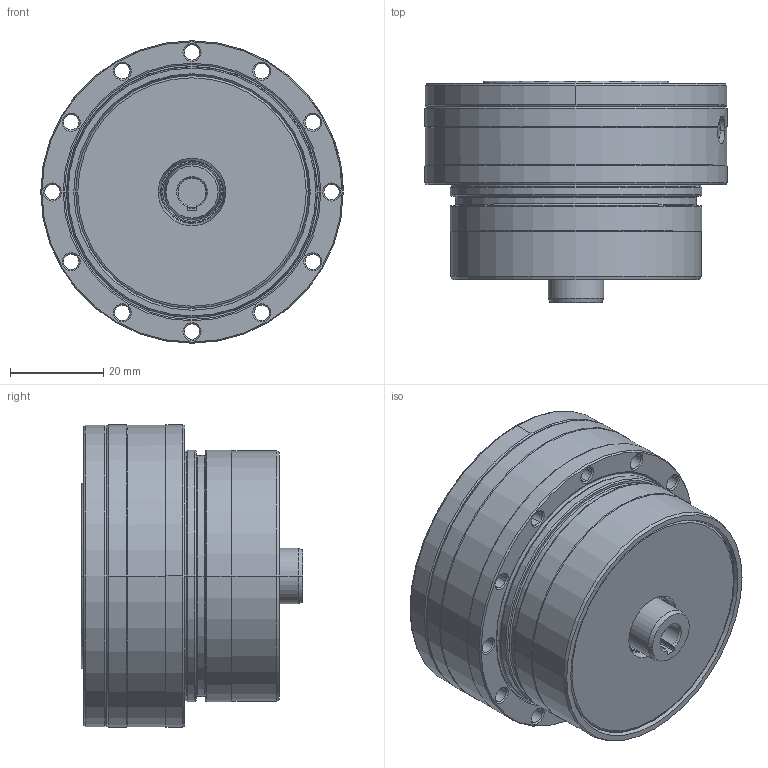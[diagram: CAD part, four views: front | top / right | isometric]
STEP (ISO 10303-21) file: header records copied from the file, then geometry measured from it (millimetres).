
FILE_DESCRIPTION((''),'2;1');
FILE_NAME('065_000G_P6_0810_ASM_ASM','2023-12-13T',('jackovicp'),(''),'PRO/ENGINEER BY PARAMETRIC TECHNOLOGY CORPORATION, 2016240','PRO/ENGINEER BY PARAMETRIC TECHNOLOGY CORPORATION, 2016240','');
FILE_SCHEMA(('AUTOMOTIVE_DESIGN { 1 0 10303 214 1 1 1 1 }'));
Length unit declared in the file: millimetre
Products named in the file (17): 065_011G_0810_AF2_40; 065_003G_0810_AF2_22; 065_007G_0810_AF0_11; GUF_DIN3761AS-040X047X4-FPM_AF0; SKR_DIN912-M2_5X6-129_AF0_4; SKR_DIN912-M2_5X6-129_AF1_4; SKR_DIN912-M2_5X6-129_AF2_4; 065_001G_P6_0810_AF0_19; 065_025G_0810_AF1_17; SKR_DIN912-M4X18-129_AF0_7; SKR_DIN912-M4X18-129_AF3_7; ZATKA-FESTO-B-M3-S9_AF0_4; ZATKA-GA22X4_AF0_3; ZATKA-GA9X4_4; GUF_DIN3761A-012X050X6-FPM_10; 065_000G_P6_0810_ASM_4_ASM; 065_000G_P6_0810_ASM_ASM
Assembly tree (16 placements, depth 3):
  065_000G_P6_0810_ASM_ASM
    065_000G_P6_0810_ASM_4_ASM
      065_011G_0810_AF2_40
      065_003G_0810_AF2_22
      065_007G_0810_AF0_11
      GUF_DIN3761AS-040X047X4-FPM_AF0
      SKR_DIN912-M2_5X6-129_AF0_4
      SKR_DIN912-M2_5X6-129_AF1_4
      SKR_DIN912-M2_5X6-129_AF2_4
      065_001G_P6_0810_AF0_19
      065_025G_0810_AF1_17
      SKR_DIN912-M4X18-129_AF0_7
      SKR_DIN912-M4X18-129_AF3_7
      ZATKA-FESTO-B-M3-S9_AF0_4
      ZATKA-GA22X4_AF0_3
      ZATKA-GA9X4_4
      GUF_DIN3761A-012X050X6-FPM_10
Bounding box: 65 x 47.6 x 65 mm (x, y, z)
Volume: 42743.5 mm3; surface area: 43441 mm2
Topology: 14 solids, 42 shells, 803 faces, 2176 edges, 1435 vertices
Faces by surface type: cone 320, cylinder 249, plane 162, torus 72
Entity records: 35312 total; most frequent: CARTESIAN_POINT 5669, DIRECTION 5120, ORIENTED_EDGE 4158, AXIS2_PLACEMENT_3D 2232, EDGE_CURVE 2134, VERTEX_POINT 1435, CIRCLE 1366, EDGE_LOOP 947
